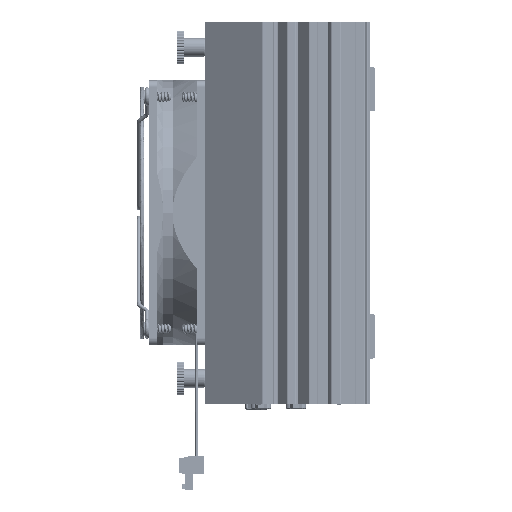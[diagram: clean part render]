
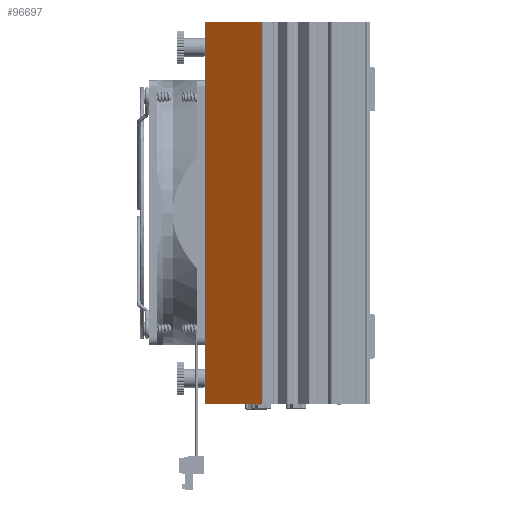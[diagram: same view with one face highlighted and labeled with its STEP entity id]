
A CAD part, left-side view. The second image highlights one B-rep face of the part: STEP entity #96697.
In plain terms, the highlighted planar face has unit normal (-0.819, 0.574, 0).
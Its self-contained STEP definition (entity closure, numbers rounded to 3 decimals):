
#13279 = VERTEX_POINT ( 'NONE', #227948 ) ;
#23956 = CARTESIAN_POINT ( 'NONE',  ( -120.999, 48.992, -86.5 ) ) ;
#24153 = DIRECTION ( 'NONE',  ( -0.574, -0.819, 0. ) ) ;
#24233 = VERTEX_POINT ( 'NONE', #596960 ) ;
#40554 = VECTOR ( 'NONE', #54668, 1000. ) ;
#41895 = FACE_OUTER_BOUND ( 'NONE', #275487, .T. ) ;
#54668 = DIRECTION ( 'NONE',  ( 0., 0., -1. ) ) ;
#61907 = VECTOR ( 'NONE', #190528, 1000. ) ;
#89467 = EDGE_CURVE ( 'NONE', #172612, #24233, #556421, .T. ) ;
#96697 = ADVANCED_FACE ( 'NONE', ( #41895 ), #207521, .F. ) ;
#102113 = EDGE_CURVE ( 'NONE', #13279, #24233, #400459, .T. ) ;
#116982 = CARTESIAN_POINT ( 'NONE',  ( -102.947, 74.772, -86.5 ) ) ;
#172612 = VERTEX_POINT ( 'NONE', #23956 ) ;
#184700 = LINE ( 'NONE', #238926, #61907 ) ;
#187457 = ORIENTED_EDGE ( 'NONE', *, *, #281578, .T. ) ;
#190528 = DIRECTION ( 'NONE',  ( -0.574, -0.819, 0. ) ) ;
#207521 = PLANE ( 'NONE',  #379773 ) ;
#227948 = CARTESIAN_POINT ( 'NONE',  ( -102.947, 74.772, 86.5 ) ) ;
#238926 = CARTESIAN_POINT ( 'NONE',  ( -122.022, 47.53, -86.5 ) ) ;
#244539 = DIRECTION ( 'NONE',  ( 0., 0., 1. ) ) ;
#253853 = DIRECTION ( 'NONE',  ( 0.574, 0.819, 0. ) ) ;
#263330 = VECTOR ( 'NONE', #24153, 1000. ) ;
#275487 = EDGE_LOOP ( 'NONE', ( #428032, #351182, #587681, #187457 ) ) ;
#281578 = EDGE_CURVE ( 'NONE', #13279, #351125, #408630, .T. ) ;
#310888 = VECTOR ( 'NONE', #244539, 1000. ) ;
#351125 = VERTEX_POINT ( 'NONE', #116982 ) ;
#351182 = ORIENTED_EDGE ( 'NONE', *, *, #89467, .T. ) ;
#377314 = CARTESIAN_POINT ( 'NONE',  ( -102.947, 74.772, 86.5 ) ) ;
#379773 = AXIS2_PLACEMENT_3D ( 'NONE', #574602, #530096, #253853 ) ;
#400459 = LINE ( 'NONE', #578856, #263330 ) ;
#408630 = LINE ( 'NONE', #377314, #40554 ) ;
#427851 = CARTESIAN_POINT ( 'NONE',  ( -120.999, 48.992, 86.5 ) ) ;
#428032 = ORIENTED_EDGE ( 'NONE', *, *, #448325, .T. ) ;
#448325 = EDGE_CURVE ( 'NONE', #351125, #172612, #184700, .T. ) ;
#530096 = DIRECTION ( 'NONE',  ( 0.819, -0.574, 0. ) ) ;
#556421 = LINE ( 'NONE', #427851, #310888 ) ;
#574602 = CARTESIAN_POINT ( 'NONE',  ( -122.022, 47.53, 86.5 ) ) ;
#578856 = CARTESIAN_POINT ( 'NONE',  ( -122.022, 47.53, 86.5 ) ) ;
#587681 = ORIENTED_EDGE ( 'NONE', *, *, #102113, .F. ) ;
#596960 = CARTESIAN_POINT ( 'NONE',  ( -120.999, 48.992, 86.5 ) ) ;
